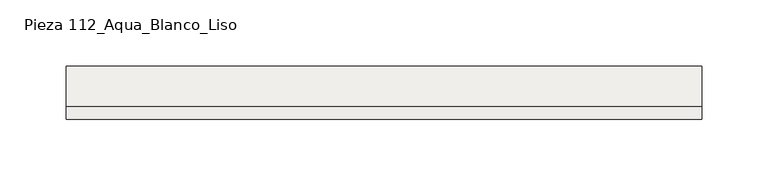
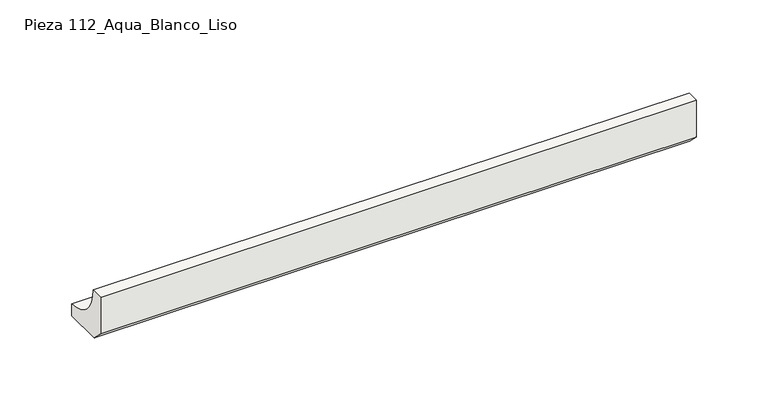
"""IFC4 building model written with IfcOpenShell, lengths in millimetres: slab geometry, ROSA GRES_112 : Pieza 112_Aqua_Blanco_Liso."""

from ifc_helpers import new_model, si_unit, point, frame, frame_2d, origin, place, context, project, spatial, polyline, circle_curve, trimmed, segment, composite_curve, outline, extrude, source, transform, mapped, element, save


def pieza_112_aqua_blanco_liso_bc3448a2(model_context):
    return source(origin(), model_context, "Body", "SweptSolid", [
        extrude(outline(composite_curve([segment(polyline([(-9.9734114, 8.7114978), (-9.9734114, 40.0), (0.0, 40.0)]), True, "CONTINUOUS"), segment(trimmed(circle_curve(frame_2d((30.0221432, 39.9955547)), 30.0221435), [point((0.0, 40.0))], [point((30.0265886, 9.9734114))], True, "CARTESIAN"), True, "CONTINUOUS"), segment(polyline([(30.0265886, 9.9734114), (30.0265886, 0.0), (-1.2619137, 0.0), (-9.9734114, 8.7114978)]), True, "CONTINUOUS")], self_intersect=False)), frame((0.0, 0.0, 0.0), z_axis=(1.0, 0.0, 0.0), x_axis=(0.0, 1.0, 0.0)), (0.0, 0.0, 1.0), 478.7953222),
    ])


if __name__ == "__main__":
    model = new_model("IFC4")
    model_context = context("Model", 3, world=origin())
    ifc_project = project(units=[si_unit("LENGTHUNIT", "METRE", prefix="MILLI")], contexts=[model_context])
    site = spatial("IfcSite", under=ifc_project)
    building = spatial("IfcBuilding", under=site)
    placement = place(None, origin())
    pieza_112_aqua_blanco_liso_shape = pieza_112_aqua_blanco_liso_bc3448a2(model_context)
    element("IfcSlab", 1, ObjectType="ROSA GRES_112 : Pieza 112_Aqua_Blanco_Liso", at=placement, inside=building, context=model_context, shape_type="MappedRepresentation", body=[
        mapped(pieza_112_aqua_blanco_liso_shape, transform((0.0, 0.0, 0.0), x_axis=(1.0, 0.0, 0.0), y_axis=(0.0, 1.0, 0.0), z_axis=(0.0, 0.0, 1.0))),
    ])
    save(model, "model.ifc")
